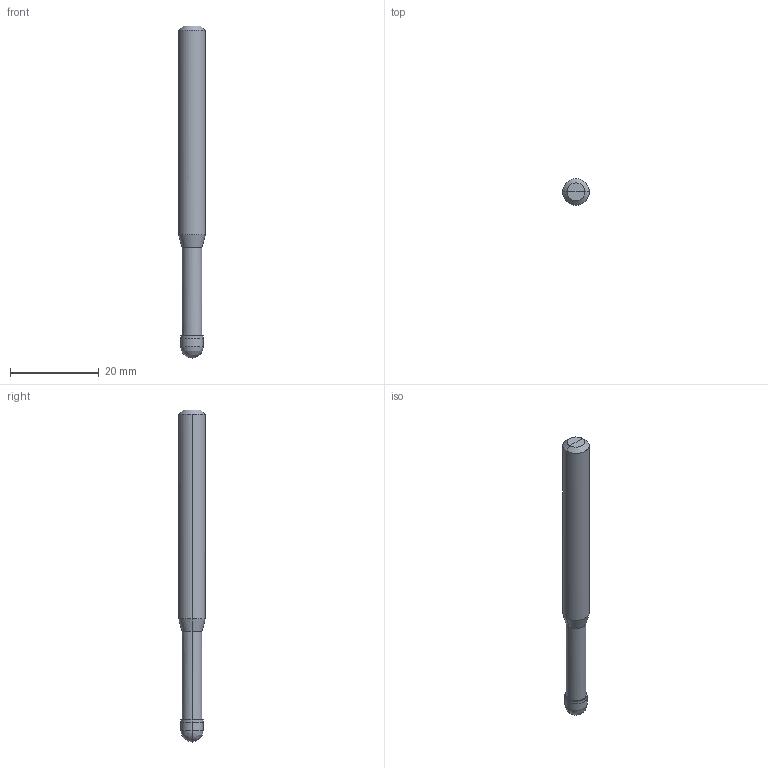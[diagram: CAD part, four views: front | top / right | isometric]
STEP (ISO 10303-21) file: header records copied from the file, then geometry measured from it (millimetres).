
FILE_DESCRIPTION(/* description */ (''),/* implementation_level */ '2;1');
FILE_NAME(/*name*/ '2102-5.0',/*time_stamp*/'2021-7-5T11:10:45',/*author*/ ('ISBE GmbH'),/*organization*/ ('ISBE GmbH'),/*preprocessor_version*/ 'STEP IO v1.0',/*originating_system*/ '',/*authorisation*/ '');
FILE_SCHEMA (('AUTOMOTIVE_DESIGN'));
Length unit declared in the file: millimetre
Products named in the file (1): Document
Bounding box: 6 x 5.99 x 75 mm (x, y, z)
Surface area: 1359.6 mm2 (no closed solid volume)
Topology: 0 solids, 22 shells, 22 faces, 90 edges, 84 vertices
Faces by surface type: bspline 22
Entity records: 615 total; most frequent: CARTESIAN_POINT 230, VERTEX_POINT 80, EDGE_CURVE 80, ORIENTED_EDGE 80, EDGE_LOOP 22, FACE_OUTER_BOUND 22, ADVANCED_FACE 22, DIRECTION 16
